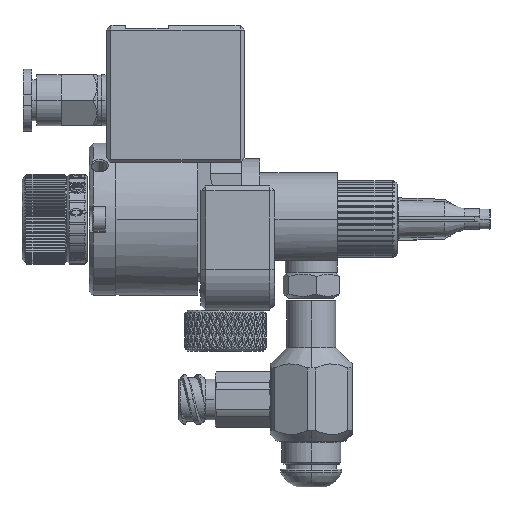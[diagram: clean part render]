
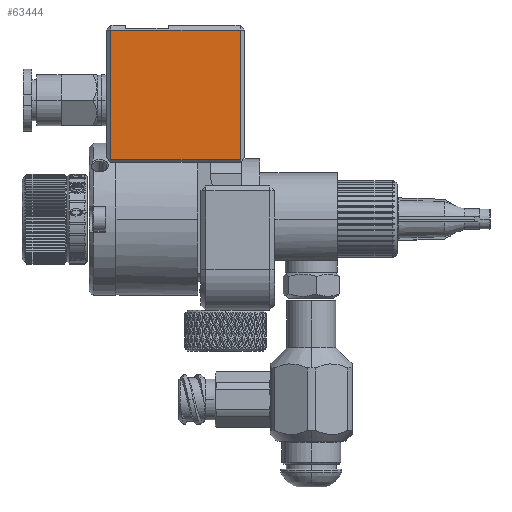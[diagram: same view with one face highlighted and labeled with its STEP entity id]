
A CAD part, left-side view. The second image highlights one B-rep face of the part: STEP entity #63444.
In plain terms, the highlighted planar face has unit normal (-1, 0, 0).
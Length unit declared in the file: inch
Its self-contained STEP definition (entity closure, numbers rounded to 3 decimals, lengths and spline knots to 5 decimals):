
#2743 = DIRECTION ( 'NONE',  ( 1., 0., 0. ) ) ;
#4529 = CARTESIAN_POINT ( 'NONE',  ( -0.365, 0.14096, 0.365 ) ) ;
#8824 = LINE ( 'NONE', #44777, #42881 ) ;
#10555 = LINE ( 'NONE', #4529, #39673 ) ;
#13190 = CARTESIAN_POINT ( 'NONE',  ( -0.365, 0.961, 0.365 ) ) ;
#13863 = ORIENTED_EDGE ( 'NONE', *, *, #22362, .F. ) ;
#17776 = DIRECTION ( 'NONE',  ( 0., 0., 1. ) ) ;
#20440 = CARTESIAN_POINT ( 'NONE',  ( -0.365, 0.171, 1.157 ) ) ;
#20977 = DIRECTION ( 'NONE',  ( 0., 1., 0. ) ) ;
#22362 = EDGE_CURVE ( 'NONE', #63926, #24800, #10555, .T. ) ;
#24033 = LINE ( 'NONE', #13190, #64747 ) ;
#24058 = DIRECTION ( 'NONE',  ( 0., 0., -1. ) ) ;
#24800 = VERTEX_POINT ( 'NONE', #34494 ) ;
#25961 = VERTEX_POINT ( 'NONE', #20440 ) ;
#28005 = DIRECTION ( 'NONE',  ( 0., 1., 0. ) ) ;
#28758 = PLANE ( 'NONE',  #41012 ) ;
#29515 = DIRECTION ( 'NONE',  ( 0., 0., -1. ) ) ;
#29972 = EDGE_LOOP ( 'NONE', ( #44226, #45226, #13863, #42578 ) ) ;
#31642 = CARTESIAN_POINT ( 'NONE',  ( -0.365, 0.171, 0.365 ) ) ;
#31880 = CARTESIAN_POINT ( 'NONE',  ( -0.365, 0.961, 1.157 ) ) ;
#34494 = CARTESIAN_POINT ( 'NONE',  ( -0.365, 0.961, 0.365 ) ) ;
#39116 = CARTESIAN_POINT ( 'NONE',  ( -0.365, 0.991, 1.157 ) ) ;
#39673 = VECTOR ( 'NONE', #20977, 39.37008 ) ;
#40110 = CARTESIAN_POINT ( 'NONE',  ( -0.365, 0.991, 0.2881 ) ) ;
#41012 = AXIS2_PLACEMENT_3D ( 'NONE', #40110, #2743, #24058 ) ;
#41310 = EDGE_CURVE ( 'NONE', #63926, #25961, #8824, .T. ) ;
#42578 = ORIENTED_EDGE ( 'NONE', *, *, #41310, .T. ) ;
#42881 = VECTOR ( 'NONE', #17776, 39.37008 ) ;
#44226 = ORIENTED_EDGE ( 'NONE', *, *, #50458, .T. ) ;
#44777 = CARTESIAN_POINT ( 'NONE',  ( -0.365, 0.171, 0.2881 ) ) ;
#45226 = ORIENTED_EDGE ( 'NONE', *, *, #50569, .T. ) ;
#49982 = VERTEX_POINT ( 'NONE', #31880 ) ;
#50458 = EDGE_CURVE ( 'NONE', #25961, #49982, #65620, .T. ) ;
#50569 = EDGE_CURVE ( 'NONE', #49982, #24800, #24033, .T. ) ;
#56827 = FACE_OUTER_BOUND ( 'NONE', #29972, .T. ) ;
#63444 = ADVANCED_FACE ( 'NONE', ( #56827 ), #28758, .F. ) ;
#63926 = VERTEX_POINT ( 'NONE', #31642 ) ;
#64747 = VECTOR ( 'NONE', #29515, 39.37008 ) ;
#65620 = LINE ( 'NONE', #39116, #68122 ) ;
#68122 = VECTOR ( 'NONE', #28005, 39.37008 ) ;
